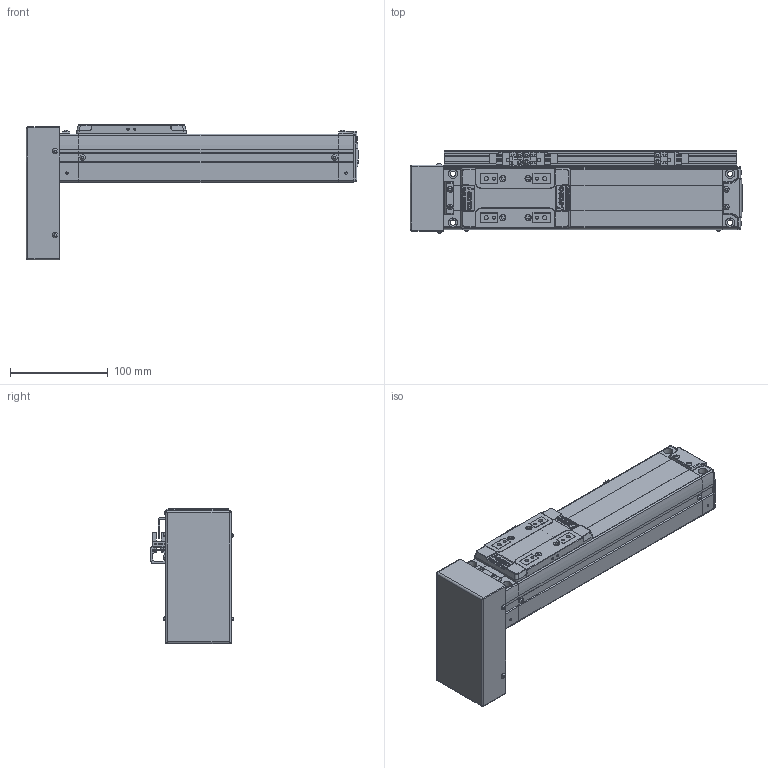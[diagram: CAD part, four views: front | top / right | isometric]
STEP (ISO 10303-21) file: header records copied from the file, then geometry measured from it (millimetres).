
FILE_DESCRIPTION(('STEP AP214'),'1');
FILE_NAME('Z:/Web/3D/SAN65/STP/SAN65ㅁㅁ-150PB+3SL.stp','2012-06-14T04:02:13',(' '),(' '),'Spatial InterOp 3D',' ',' ');
FILE_SCHEMA(('automotive_design'));
Length unit declared in the file: metre
Products named in the file (57): SAN65__-150; BODY-SAN65; REAR-SAN65; RRCV-SAN65; 스크루 : Round - M3.0 x 6.0; FRONT-SAN65; SHAFT-SAN65; RN8 x 0.75; SSFX-SAN65; SLIDE-SAN65; SLCV-SAN65; 스크루 : Countersunk - M3.0 x 6.0; ____199; PB; BTCV-SAN65; M3.0 x 6.0; 3SL; SRL-16x17-450L; - OT; EE-SX674; SBK-SX674-352; HOME; + OT; DOG; SDG-SAN65; 스크루 : Round - M3.0 x 5.0
Assembly tree (56 placements, depth 4):
  ____199
    SAN65__-150
      BODY-SAN65
      REAR-SAN65
        REAR-SAN65
        RRCV-SAN65
        스크루 : Round - M3.0 x 6.0
        스크루 : Round - M3.0 x 6.0
        스크루 : Round - M3.0 x 6.0
        스크루 : Round - M3.0 x 6.0
        스크루 : Round - M3.0 x 6.0
        스크루 : Round - M3.0 x 6.0
      FRONT-SAN65
        FRONT-SAN65
        SHAFT-SAN65
        RN8 x 0.75
        SSFX-SAN65
        스크루 : Round - M3.0 x 6.0
        스크루 : Round - M3.0 x 6.0
        스크루 : Round - M3.0 x 6.0
        스크루 : Round - M3.0 x 6.0
      SLIDE-SAN65
        SLIDE-SAN65
        SLCV-SAN65
        스크루 : Countersunk - M3.0 x 6.0
        스크루 : Countersunk - M3.0 x 6.0
        스크루 : Countersunk - M3.0 x 6.0
        스크루 : Countersunk - M3.0 x 6.0
    PB
      BTCV-SAN65
      M3.0 x 6.0
      M3.0 x 6.0
      M3.0 x 6.0
      M3.0 x 6.0
    3SL
      SRL-16x17-450L
      스크루 : Round - M3.0 x 6.0
      스크루 : Round - M3.0 x 6.0
      - OT
        EE-SX674
        SBK-SX674-352
        스크루 : Round - M3.0 x 6.0
        스크루 : Round - M3.0 x 6.0
      HOME
        EE-SX674
        SBK-SX674-352
        스크루 : Round - M3.0 x 6.0
        스크루 : Round - M3.0 x 6.0
      + OT
        EE-SX674
        SBK-SX674-352
        스크루 : Round - M3.0 x 6.0
        스크루 : Round - M3.0 x 6.0
      DOG
        SDG-SAN65
        스크루 : Round - M3.0 x 5.0
        스크루 : Round - M3.0 x 5.0
Bounding box: 340.15 x 84.06 x 138.5 mm (x, y, z)
Volume: 1328340 mm3; surface area: 223845.3 mm2
Topology: 46 solids, 46 shells, 1931 faces, 4926 edges, 3214 vertices
Faces by surface type: plane 1292, cylinder 472, cone 83, sphere 36, bspline 30, torus 15, extrusion 3
Full cylindrical faces by diameter (mm): 0.571 x2, 0.706 x1, 1.727 x2, 2.132 x1, 2.2 x4, 2.5 x15, 2.528 x4, 3 x6, 3.121 x2, 3.3 x4, 3.4 x8, 3.5 x14, 4.2 x18, 4.849 x4, 5 x3, 5.5 x4, 5.987 x2, 6 x6, 6.35 x1, 6.5 x2, 7 x1, 8 x4, 9.5 x4, 13 x1, 15 x1, 19 x1, 26 x1, 38.1 x1
Entity records: 77993 total; most frequent: CARTESIAN_POINT 14871, DIRECTION 9689, ORIENTED_EDGE 9236, EDGE_CURVE 4618, VECTOR 3273, LINE 3270, AXIS2_PLACEMENT_3D 3208, VERTEX_POINT 3150
